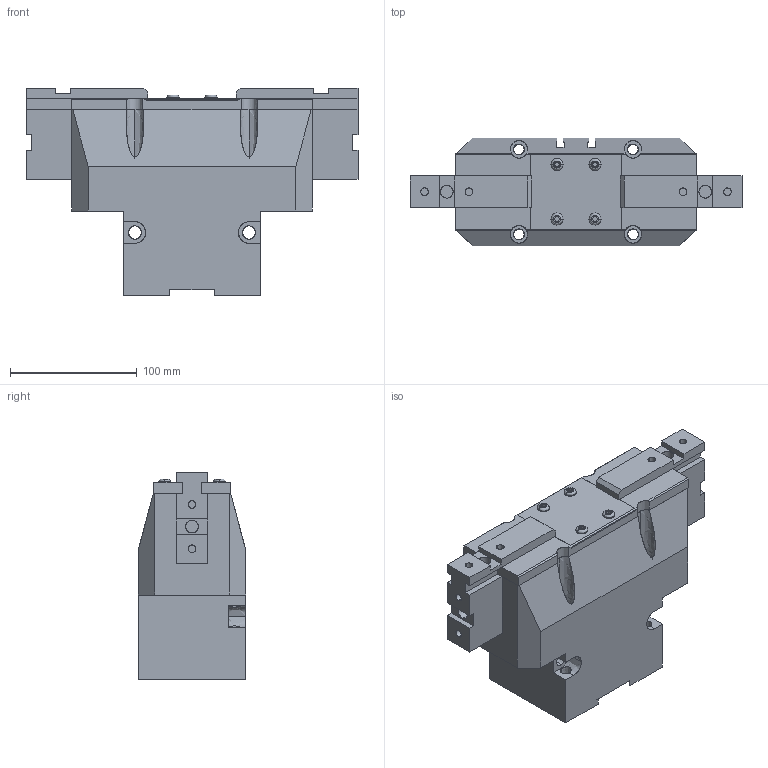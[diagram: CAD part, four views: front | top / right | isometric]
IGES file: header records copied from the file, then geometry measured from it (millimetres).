
Global section: file name: C:\Documents and Settings\Administrateur\Mes documents\OPE-190-X-OPEN.igs; native system: AutoCAD-16.0s (LMS Tech) (Microsoft Windows NT Version 5.1 (x86)); preprocessor: Autodesk IGES Translator Mechanical Desktop.R7.0.43.0 (Mar 18 2003) from Autodesk, Inc.; date: 20050629.221540; units: millimetre
Bounding box: 262 x 85 x 164 mm (x, y, z)
Surface area: 223797.9 mm2 (no closed solid volume)
Topology: 0 solids, 0 shells, 299 faces, 3333 edges, 3426 vertices
Faces by surface type: bspline 299
